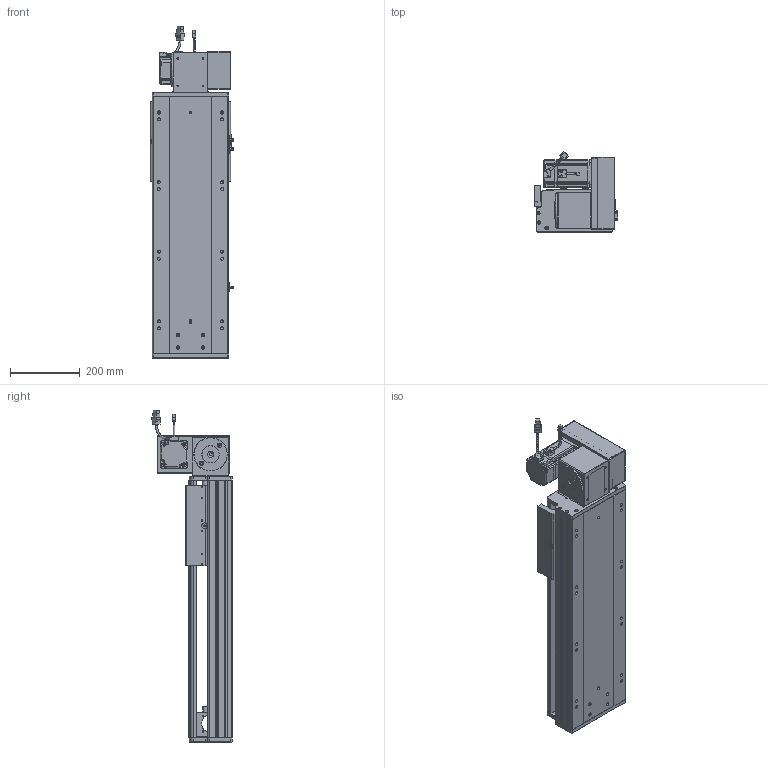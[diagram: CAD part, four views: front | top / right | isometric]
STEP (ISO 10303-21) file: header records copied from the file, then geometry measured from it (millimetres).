
FILE_DESCRIPTION (( 'STEP AP203' ), '1' );
FILE_NAME ('RY220-T-300-UR.SLDASM_400.step', '2022-07-25T08:42:33', ( '' ), ( '' ), 'SwSTEP 2.0', 'SolidWorks 2016', '' );
FILE_SCHEMA (( 'CONFIG_CONTROL_DESIGN' ));
Length unit declared in the file: millimetre
Products named in the file (14): RY220-同步轮副支撑座6304×2; 覜茼ん672; RY220-T菁釱-300_400; RY220翋肮祭謫釱; RY220-T-蛌殏萇儂假蚾啣(750W); 怢湛750W_ECMA-CX0807ES; RY220翋肮祭謫裔啣; 滅袉蝶18-15; RY220-T-湍謫欶(鍼踢); RY220-T-300-奻裔啣_400; 110A-T-肮祭謫釱傷裔; RY220-俋离672覜茼んえ; RY220圉猾敕々湍臏賑輸; RY220-T-300-UR.SLDASM_400
Assembly tree (18 placements, depth 2):
  RY220-T-300-UR.SLDASM_400
    RY220-T菁釱-300_400
    RY220翋肮祭謫釱
    覜茼ん672  x3
    RY220圉猾敕々湍臏賑輸
    RY220-T-300-奻裔啣_400
    RY220-俋离672覜茼んえ
    滅袉蝶18-15  x3
    RY220翋肮祭謫裔啣  x2
    110A-T-肮祭謫釱傷裔
    怢湛750W_ECMA-CX0807ES
    RY220-T-湍謫欶(鍼踢)
    RY220-T-蛌殏萇儂假蚾啣(750W)
    RY220-同步轮副支撑座6304×2
Bounding box: 238.7 x 231.74 x 953.27 mm (x, y, z)
Volume: 8379198.5 mm3; surface area: 2314365.3 mm2
Topology: 19 solids, 19 shells, 2502 faces, 6891 edges, 4394 vertices
Faces by surface type: cylinder 1142, plane 1069, cone 209, bspline 56, sphere 16, torus 10
Entity records: 83043 total; most frequent: CARTESIAN_POINT 23775, ORIENTED_EDGE 12346, DIRECTION 11560, EDGE_CURVE 6173, AXIS2_PLACEMENT_3D 4048, VERTEX_POINT 4018, LINE 3464, VECTOR 3464
